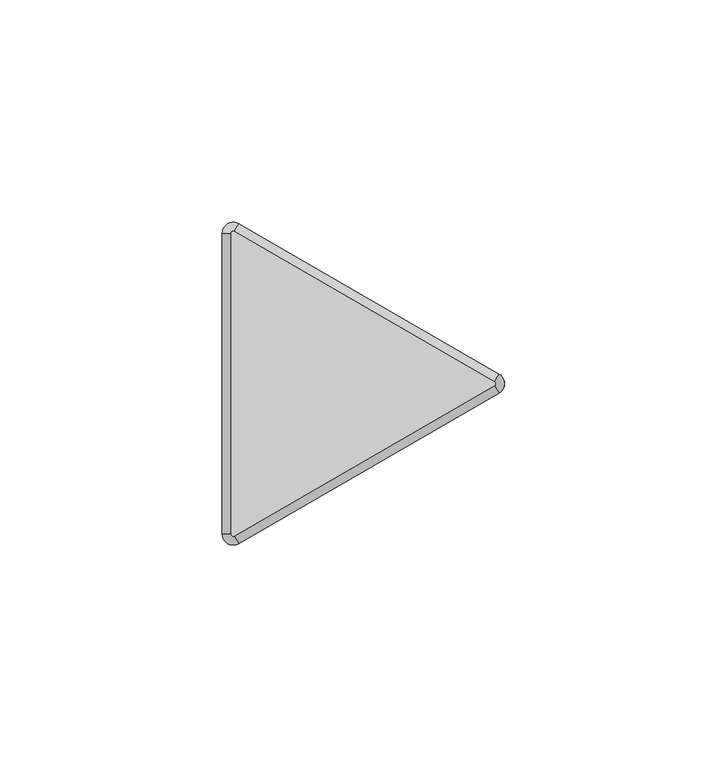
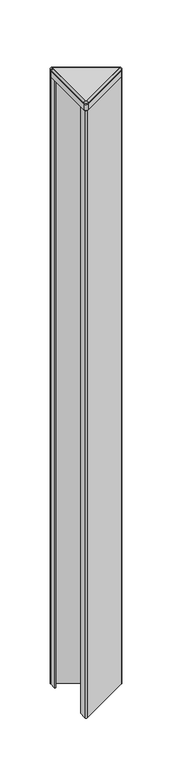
"""IFC4 building model written with IfcOpenShell, lengths in millimetres: furniture geometry, Steelcase - Answer Solution - Panel - 120deg Change-of-Height Trim - Thin : Y Corner - 30H for 90H App."""

from ifc_helpers import new_model, si_unit, point, frame, frame_2d, origin, place, context, project, spatial, polyline, circle_curve, ellipse_curve, trimmed, segment, composite_curve, outline, extrude, source, transform, mapped, element, save
from ifc_brep_helpers import plane_surface, cylinder_surface, revolved_surface, advanced_brep


def furniture_627c9140(model_context):
    return source(origin(), model_context, "Body", "SolidModel", [
        advanced_brep(
        [(-10.518645, -37.3335529, 2138.0628978), (-14.2052101, -35.2051135, 2138.0628978), (-14.2052101, -35.2051135, 2137.1164663), (-10.518645, -37.3335529, 2137.1164663), (-11.46175, -35.7000471, 2139.95), (-12.319, -35.2051135, 2139.95), (-11.46175, -35.7000471, 2137.1164663), (-12.319, -35.2051135, 2137.1164663), (48.0429908, -3.5229767, 2137.1164663), (48.0429908, -3.5229767, 2138.0628978), (47.0998858, -1.8894709, 2139.95), (47.0998858, -1.8894709, 2137.1164663), (48.0429908, 0.733902, 2138.0628978), (48.0429908, 0.733902, 2137.1164663), (47.0998858, -0.8996038, 2139.95), (47.0998858, -0.8996038, 2137.1164663), (-10.518645, 34.5444782, 2137.1164663), (-14.2052101, 32.4160388, 2137.1164663), (-11.46175, 32.9109723, 2137.1164663), (-12.319, 32.4160388, 2137.1164663), (-10.518645, 34.5444782, 2138.0628978), (-11.46175, 32.9109723, 2139.95), (-14.2052101, 32.4160388, 2138.0628978), (-12.319, 32.4160388, 2139.95)],
        [
            (0, 1, circle_curve(frame((-11.7475, -35.2051135, 2138.0628978), z_axis=(0.0, 0.0, -1.0), x_axis=(-1.0, 0.0, 0.0)), 2.4577101)),
            (1, 2),
            (2, 3, circle_curve(frame((-11.7475, -35.2051135, 2137.1164663), z_axis=(0.0, 0.0, 1.0), x_axis=(-1.0, 0.0, 0.0)), 2.4577101)),
            (3, 0),
            (4, 5, circle_curve(frame((-11.7475, -35.2051135, 2139.95), z_axis=(0.0, 0.0, -1.0), x_axis=(-1.0, 0.0, 0.0)), 0.5715)),
            (5, 1, circle_curve(frame((-12.3181076, -35.2051135, 2138.0628978), z_axis=(0.0, -1.0, 0.0), x_axis=(1.0, 0.0, 0.0)), 1.8871024)),
            (0, 4, circle_curve(frame((-11.4621962, -35.6992743, 2138.0628978), z_axis=(-0.8660254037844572, -0.49999999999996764, 0.0), x_axis=(-0.49999999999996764, 0.8660254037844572, 0.0)), 1.8871024)),
            (6, 7, circle_curve(frame((-11.7475, -35.2051135, 2137.1164663), z_axis=(0.0, 0.0, -1.0), x_axis=(-1.0, 0.0, 0.0)), 0.5715)),
            (7, 5),
            (4, 6),
            (3, 8),
            (8, 9),
            (9, 0),
            (9, 10, circle_curve(frame((47.0994396, -1.8886981, 2138.0628978), z_axis=(-0.8660254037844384, -0.5000000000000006, 0.0), x_axis=(-0.5000000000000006, 0.8660254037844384, 0.0)), 1.8871024)),
            (10, 4),
            (10, 11),
            (11, 6),
            (12, 9, circle_curve(frame((46.8141358, -1.3945374, 2138.0628978), z_axis=(0.0, 0.0, -1.0), x_axis=(0.4999999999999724, -0.8660254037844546, 0.0)), 2.4577101)),
            (8, 13, circle_curve(frame((46.8141358, -1.3945374, 2137.1164663), z_axis=(0.0, 0.0, 1.0), x_axis=(0.4999999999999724, -0.8660254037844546, 0.0)), 2.4577101)),
            (13, 12),
            (14, 10, circle_curve(frame((46.8141358, -1.3945374, 2139.95), z_axis=(0.0, 0.0, -1.0), x_axis=(0.4999999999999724, -0.8660254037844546, 0.0)), 0.5715)),
            (12, 14, circle_curve(frame((47.0994396, -0.9003766, 2138.0628978), z_axis=(0.8660254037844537, -0.49999999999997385, 0.0), x_axis=(-0.49999999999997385, -0.8660254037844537, 0.0)), 1.8871024)),
            (15, 11, circle_curve(frame((46.8141358, -1.3945374, 2137.1164663), z_axis=(0.0, 0.0, -1.0), x_axis=(0.4999999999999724, -0.8660254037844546, 0.0)), 0.5715)),
            (14, 15),
            (16, 13),
            (2, 17),
            (17, 16, circle_curve(frame((-11.7475, 32.4160388, 2137.1164663), z_axis=(0.0, 0.0, -1.0), x_axis=(0.500000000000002, 0.8660254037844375, 0.0)), 2.4577101)),
            (15, 18),
            (18, 19, circle_curve(frame((-11.7475, 32.4160388, 2137.1164663), z_axis=(0.0, 0.0, 1.0), x_axis=(0.500000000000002, 0.8660254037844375, 0.0)), 0.5715)),
            (19, 7),
            (16, 20),
            (20, 12),
            (20, 21, circle_curve(frame((-11.4621962, 32.9101995, 2138.0628978), z_axis=(0.8660254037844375, -0.5000000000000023, 0.0), x_axis=(-0.5000000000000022, -0.8660254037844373, 0.0)), 1.8871024)),
            (21, 14),
            (21, 18),
            (22, 20, circle_curve(frame((-11.7475, 32.4160388, 2138.0628978), z_axis=(0.0, 0.0, -1.0), x_axis=(0.500000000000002, 0.8660254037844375, 0.0)), 2.4577101)),
            (17, 22),
            (23, 21, circle_curve(frame((-11.7475, 32.4160388, 2139.95), z_axis=(0.0, 0.0, -1.0), x_axis=(0.500000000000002, 0.8660254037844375, 0.0)), 0.5715)),
            (22, 23, circle_curve(frame((-12.3181076, 32.4160388, 2138.0628978), z_axis=(0.0, 1.0, 0.0), x_axis=(1.0, 0.0, 0.0)), 1.8871024)),
            (23, 19),
            (1, 22),
            (5, 23),
        ],
        [
            cylinder_surface(frame((-11.7475, -35.2051135, 0.0), z_axis=(0.0, 0.0, 1.0), x_axis=(-1.0, 0.0, 0.0)), 2.4577101),
            revolved_surface(trimmed(ellipse_curve(frame((-12.3181076, -35.2051135, 2138.0628978), z_axis=(0.0, 1.0, 0.0), x_axis=(1.0, 0.0, 0.0)), 1.8871024, 1.8871024), [point((-14.2052101, -35.2051135, 2138.0628978))], [point((-12.319, -35.2051135, 2139.95))], True, "CARTESIAN"), (-11.7475, -35.2051135, 0.0), (0.0, 0.0, 1.0)),
            revolved_surface(polyline([(-12.319, -35.2051135, 2139.95), (-12.319, -35.2051135, 2137.1164663)]), (-11.7475, -35.2051135, 0.0), (0.0, 0.0, 1.0)),
            plane_surface(frame((-10.518645, -37.3335529, 2137.1164663), z_axis=(0.49999999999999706, -0.8660254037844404, 0.0), x_axis=(0.8660254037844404, 0.49999999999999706, 0.0))),
            cylinder_surface(frame((-11.4621962, -35.6992743, 2138.0628978), z_axis=(-0.8660254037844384, -0.5000000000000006, 0.0), x_axis=(-0.5000000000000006, 0.8660254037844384, 0.0)), 1.8871024),
            plane_surface(frame((-11.46175, -35.7000471, 2139.95), z_axis=(-0.500000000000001, 0.8660254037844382, 0.0), x_axis=(0.8660254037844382, 0.500000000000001, 0.0))),
            cylinder_surface(frame((46.8141358, -1.3945374, 0.0), z_axis=(0.0, 0.0, 1.0), x_axis=(0.4999999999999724, -0.8660254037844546, 0.0)), 2.4577101),
            revolved_surface(trimmed(ellipse_curve(frame((47.0994396, -1.8886981, 2138.0628978), z_axis=(-0.8660254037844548, -0.499999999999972, 0.0), x_axis=(-0.499999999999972, 0.8660254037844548, 0.0)), 1.8871024, 1.8871024), [point((48.0429908, -3.5229767, 2138.0628978))], [point((47.0998858, -1.8894709, 2139.95))], True, "CARTESIAN"), (46.8141358, -1.3945374, 0.0), (0.0, 0.0, 1.0)),
            revolved_surface(polyline([(47.09988579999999, -1.8894709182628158, 2139.95), (47.09988579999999, -1.8894709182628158, 2137.1164663)]), (46.8141358, -1.3945374, 0.0), (0.0, 0.0, 1.0)),
            plane_surface(frame((47.0998858, -0.8996038, 2137.1164663), z_axis=(0.0, 0.0, -1.0), x_axis=(-0.8660254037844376, 0.5000000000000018, 0.0))),
            plane_surface(frame((48.0429908, 0.733902, 2137.1164663), z_axis=(0.49999999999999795, 0.8660254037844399, 0.0), x_axis=(-0.8660254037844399, 0.49999999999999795, 0.0))),
            cylinder_surface(frame((47.0994396, -0.9003766, 2138.0628978), z_axis=(0.8660254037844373, -0.5000000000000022, 0.0), x_axis=(-0.5000000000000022, -0.8660254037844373, 0.0)), 1.8871024),
            plane_surface(frame((47.0998858, -0.8996038, 2139.95), z_axis=(-0.5000000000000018, -0.8660254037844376, 0.0), x_axis=(-0.8660254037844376, 0.5000000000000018, 0.0))),
            cylinder_surface(frame((-11.7475, 32.4160388, 0.0), z_axis=(0.0, 0.0, 1.0), x_axis=(0.500000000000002, 0.8660254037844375, 0.0)), 2.4577101),
            revolved_surface(trimmed(ellipse_curve(frame((-11.4621962, 32.9101995, 2138.0628978), z_axis=(0.866025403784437, -0.5000000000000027, 0.0), x_axis=(-0.5000000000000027, -0.866025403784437, 0.0)), 1.8871024, 1.8871024), [point((-10.518645, 34.5444782, 2138.0628978))], [point((-11.46175, 32.9109723, 2139.95))], True, "CARTESIAN"), (-11.7475, 32.4160388, 0.0), (0.0, 0.0, 1.0)),
            revolved_surface(polyline([(-11.461749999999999, 32.91097231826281, 2139.95), (-11.461749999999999, 32.91097231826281, 2137.1164663)]), (-11.7475, 32.4160388, 0.0), (0.0, 0.0, 1.0)),
            plane_surface(frame((-14.2052101, 32.4160388, 2137.1164663), z_axis=(-1.0, 0.0, 0.0), x_axis=(0.0, -1.0, 0.0))),
            cylinder_surface(frame((-12.3181076, 32.4160388, 2138.0628978), z_axis=(0.0, 1.0, 0.0), x_axis=(1.0, 0.0, 0.0)), 1.8871024),
            plane_surface(frame((-12.319, 32.4160388, 2139.95), z_axis=(1.0, 0.0, 0.0), x_axis=(0.0, -1.0, 0.0))),
        ],
        [
            (0, [[1, 2, 3, 4]]),
            (1, [[5, 6, -1, 7]]),
            (2, [[8, 9, -5, 10]]),
            (3, [[-4, 11, 12, 13]]),
            (4, [[-7, -13, 14, 15]]),
            (5, [[-10, -15, 16, 17]]),
            (6, [[18, -12, 19, 20]]),
            (7, [[21, -14, -18, 22]]),
            (8, [[23, -16, -21, 24]]),
            (9, [[25, -19, -11, -3, 26, 27], [-8, -17, -23, 28, 29, 30]]),
            (10, [[-20, -25, 31, 32]]),
            (11, [[-22, -32, 33, 34]]),
            (12, [[-24, -34, 35, -28]]),
            (13, [[36, -31, -27, 37]]),
            (14, [[38, -33, -36, 39]]),
            (15, [[-29, -35, -38, 40]]),
            (16, [[-37, -26, -2, 41]]),
            (17, [[-39, -41, -6, 42]]),
            (18, [[-40, -42, -9, -30]]),
        ],
    ),
        extrude(outline(composite_curve([segment(trimmed(circle_curve(frame_2d((47.9522001, -1.3945374)), 1.2978651), [point((48.6011327, -0.2705532))], [point((48.6011327, -2.5185215))], False, "CARTESIAN"), True, "CONTINUOUS"), segment(polyline([(48.6011327, -2.5185215), (-11.6879343, -37.3264306)]), True, "CONTINUOUS"), segment(trimmed(circle_curve(frame_2d((-12.3300896, -36.2141852)), 1.2843104), [point((-11.6879343, -37.3264306))], [point((-13.6144, -36.2141852))], False, "CARTESIAN"), True, "CONTINUOUS"), segment(polyline([(-13.6144, -36.2141852), (-13.6144, -27.3303775), (-12.7, -27.3303775), (-12.7, -36.8548888), (48.7191304, -1.3945374), (-12.7, 34.0658141), (-12.7, 24.5413027), (-13.6144, 24.5413027), (-13.6144, 33.4106259)]), True, "CONTINUOUS"), segment(trimmed(circle_curve(frame_2d((-12.3217269, 33.4106259)), 1.2926731), [point((-13.6144, 33.4106259))], [point((-11.6753904, 34.5301136))], False, "CARTESIAN"), True, "CONTINUOUS"), segment(polyline([(-11.6753904, 34.5301136), (48.6011327, -0.2705532)]), True, "CONTINUOUS")], self_intersect=False)), frame((0.0, 0.0, 1377.95), z_axis=(0.0, 0.0, 1.0), x_axis=(1.0, 0.0, 0.0)), (0.0, 0.0, 1.0), 751.84),
        extrude(outline(composite_curve([segment(trimmed(circle_curve(frame_2d((46.8261011, -1.3945374)), 0.5655173), [point((47.1088598, -0.904785))], [point((47.1088598, -1.8842897))], False, "CARTESIAN"), True, "CONTINUOUS"), segment(polyline([(47.1088598, -1.8842897), (-11.4505119, -35.6935587)]), True, "CONTINUOUS"), segment(trimmed(circle_curve(frame_2d((-11.7400079, -35.1921369)), 0.5789921), [point((-11.4505119, -35.6935587))], [point((-12.319, -35.1921369))], False, "CARTESIAN"), True, "CONTINUOUS"), segment(polyline([(-12.319, -35.1921369), (-12.319, 32.3985888)]), True, "CONTINUOUS"), segment(trimmed(circle_curve(frame_2d((-11.7374252, 32.3985888)), 0.5815748), [point((-12.319, 32.3985888))], [point((-11.4466378, 32.9022473))], False, "CARTESIAN"), True, "CONTINUOUS"), segment(polyline([(-11.4466378, 32.9022473), (47.1088598, -0.904785)]), True, "CONTINUOUS")], self_intersect=False)), frame((0.0, 0.0, 2137.1164663), z_axis=(0.0, 0.0, 1.0), x_axis=(1.0, 0.0, 0.0)), (0.0, 0.0, 1.0), 2.8335337),
        extrude(outline(composite_curve([segment(trimmed(circle_curve(frame_2d((46.8140443, -1.3945374)), 2.4577558), [point((48.0429222, 0.7339416))], [point((48.0429222, -3.5230163))], False, "CARTESIAN"), True, "CONTINUOUS"), segment(polyline([(48.0429222, -3.5230163), (-10.518058, -37.333214)]), True, "CONTINUOUS"), segment(trimmed(circle_curve(frame_2d((-11.7471087, -35.2044357)), 2.4581014), [point((-10.518058, -37.333214))], [point((-14.2052101, -35.2044357))], False, "CARTESIAN"), True, "CONTINUOUS"), segment(polyline([(-14.2052101, -35.2044357), (-14.2052101, 32.4160388)]), True, "CONTINUOUS"), segment(trimmed(circle_curve(frame_2d((-11.7475, 32.4160388)), 2.4577101), [point((-14.2052101, 32.4160388))], [point((-10.518645, 34.5444782))], False, "CARTESIAN"), True, "CONTINUOUS"), segment(polyline([(-10.518645, 34.5444782), (48.0429222, 0.7339416)]), True, "CONTINUOUS")], self_intersect=False)), frame((0.0, 0.0, 2129.79), z_axis=(0.0, 0.0, 1.0), x_axis=(1.0, 0.0, 0.0)), (0.0, 0.0, 1.0), 7.3264663),
    ])


if __name__ == "__main__":
    model = new_model("IFC4")
    model_context = context("Model", 3, world=origin())
    ifc_project = project(units=[si_unit("LENGTHUNIT", "METRE", prefix="MILLI")], contexts=[model_context])
    site = spatial("IfcSite", under=ifc_project)
    building = spatial("IfcBuilding", under=site)
    placement = place(None, origin())
    furniture_shape = furniture_627c9140(model_context)
    element("IfcFurniture", 1, ObjectType="Steelcase - Answer Solution - Panel - 120deg Change-of-Height Trim - Thin : Y Corner - 30H for 90H App", at=placement, inside=building, context=model_context, shape_type="MappedRepresentation", body=[
        mapped(furniture_shape, transform((0.0, 0.0, 0.0), x_axis=(1.0, 0.0, 0.0), y_axis=(0.0, 1.0, 0.0), z_axis=(0.0, 0.0, 1.0))),
    ])
    save(model, "model.ifc")
